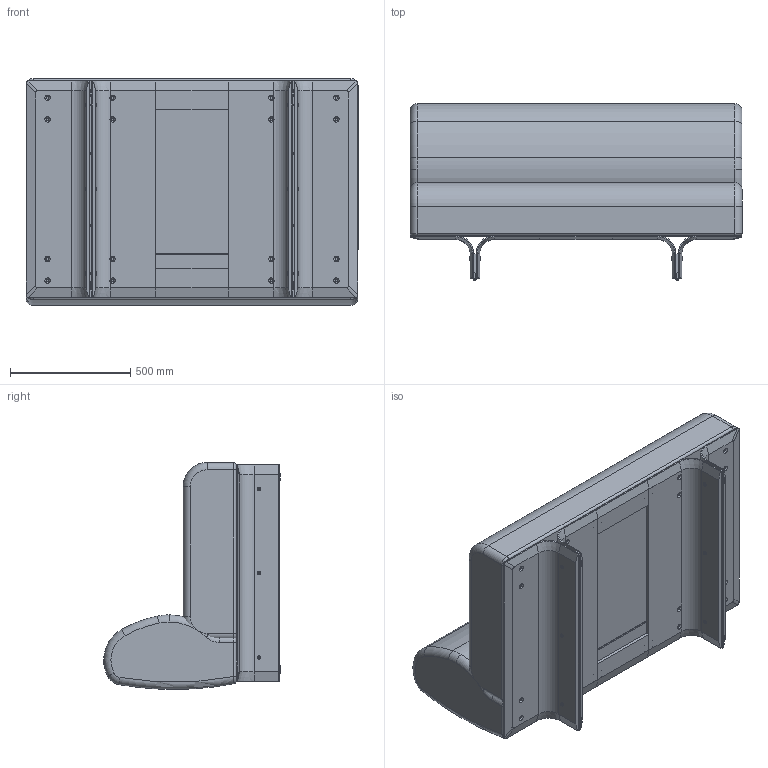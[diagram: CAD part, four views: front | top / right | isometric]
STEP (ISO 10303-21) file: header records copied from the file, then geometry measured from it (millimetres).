
FILE_DESCRIPTION (( 'STEP AP214' ), '1' );
FILE_NAME ('1380 central.STEP', '2024-06-05T12:46:35', ( '' ), ( '' ), 'SwSTEP 2.0', 'SolidWorks 2023', '' );
FILE_SCHEMA (( 'AUTOMOTIVE_DESIGN' ));
Length unit declared in the file: millimetre
Products named in the file (11): BASE_COMPONENTI_SEMIPONTE CENTRALE; 20PT8X30N scivolo IPEA; STAMI_SOFA_PLUS_BASE_ASSIEME_1380 CENTRALE o POUFF; 1380 central; SCHIENALE_GOMMA_1380 centrale; BASE_FASCIA_COLLEGAMENTO_x_MODULARE_1380 CENTRALE; BASE_COMPONENTI_SEMIPONTE TERMINALE; PIEDINO_L900; BASE_DISTANZIALE_1cm; boccola_borchia M6; SEDILE_1380 CENTRALE GOMMA
Assembly tree (29 placements, depth 3):
  1380 central
    STAMI_SOFA_PLUS_BASE_ASSIEME_1380 CENTRALE o POUFF
      BASE_DISTANZIALE_1cm  x2
      PIEDINO_L900  x2
      20PT8X30N scivolo IPEA  x4
      BASE_COMPONENTI_SEMIPONTE CENTRALE  x2
      BASE_COMPONENTI_SEMIPONTE TERMINALE  x2
      BASE_FASCIA_COLLEGAMENTO_x_MODULARE_1380 CENTRALE  x2
      boccola_borchia M6  x12
    SEDILE_1380 CENTRALE GOMMA
    SCHIENALE_GOMMA_1380 centrale
Bounding box: 1380 x 733.94 x 943.25 mm (x, y, z)
Volume: 433690731.3 mm3; surface area: 8746293.9 mm2
Topology: 28 solids, 28 shells, 741 faces, 1751 edges, 1054 vertices
Faces by surface type: cylinder 325, plane 254, cone 88, torus 56, sphere 16, bspline 2
Entity records: 9309 total; most frequent: CARTESIAN_POINT 1780, DIRECTION 1667, ORIENTED_EDGE 1378, EDGE_CURVE 689, AXIS2_PLACEMENT_3D 668, VERTEX_POINT 422, EDGE_LOOP 353, CIRCLE 346
